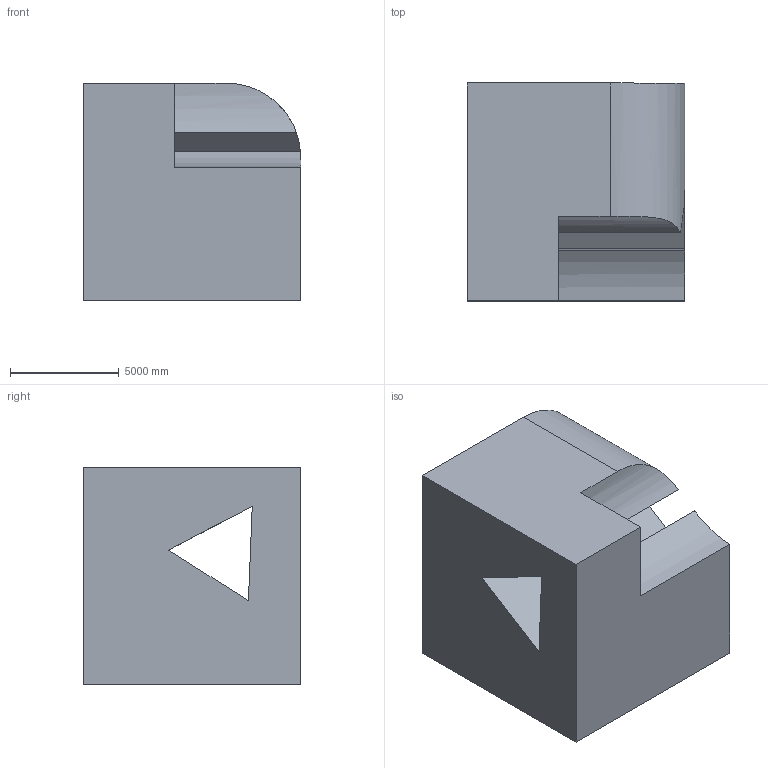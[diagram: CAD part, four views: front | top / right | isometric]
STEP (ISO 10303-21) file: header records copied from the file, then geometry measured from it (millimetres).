
FILE_DESCRIPTION (( 'STEP AP203' ), '1' );
FILE_NAME ('268.STEP', '2022-07-28T14:09:27', ( 'user' ), ( '' ), 'SwSTEP 2.0', 'SolidWorks 2021', '' );
FILE_SCHEMA (( 'CONFIG_CONTROL_DESIGN' ));
Length unit declared in the file: centimetre
Products named in the file (1): 268
Bounding box: 10000 x 10000 x 10000 mm (x, y, z)
Volume: 837678114307.3 mm3; surface area: 669370175.5 mm2
Topology: 1 solids, 1 shells, 14 faces, 39 edges, 26 vertices
Faces by surface type: plane 10, cylinder 4
Entity records: 614 total; most frequent: CARTESIAN_POINT 176, ORIENTED_EDGE 78, DIRECTION 69, EDGE_CURVE 39, VECTOR 31, LINE 31, VERTEX_POINT 26, AXIS2_PLACEMENT_3D 19
